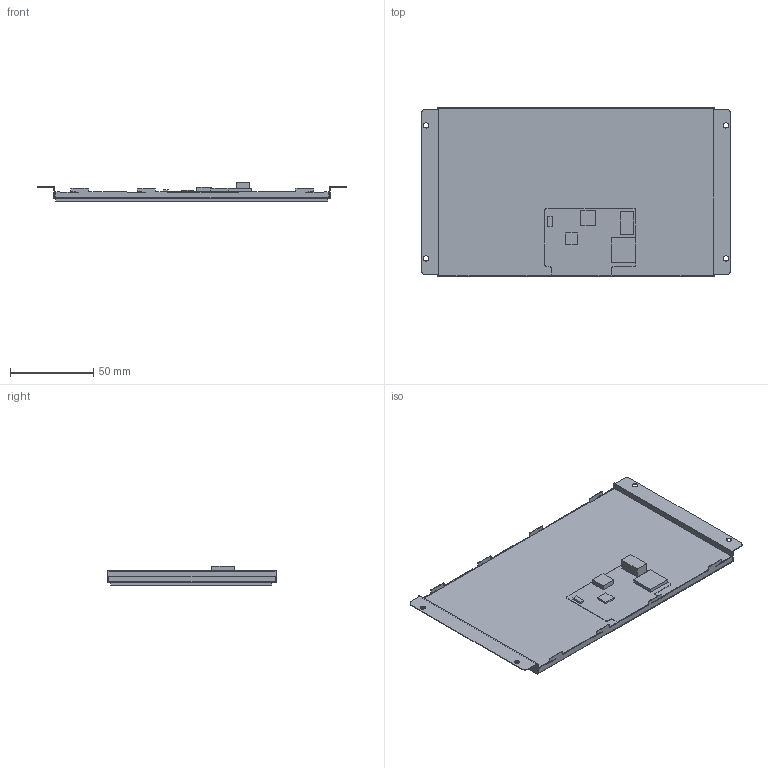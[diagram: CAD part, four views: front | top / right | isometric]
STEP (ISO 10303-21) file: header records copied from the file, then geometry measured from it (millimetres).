
FILE_DESCRIPTION(/* description */ (''),/* implementation_level */ '2;1');
FILE_NAME(/* name */ 'VTc070C01AC.stp',/* time_stamp */ '2026-05-29T09:46:02+08:00',/* author */ (''),/* organization */ (''),/* preprocessor_version */ 'ST-DEVELOPER v16',/* originating_system */ 'SIEMENS PLM Software NX 10.0',/* authorisation */ '');
FILE_SCHEMA (('AP203_CONFIGURATION_CONTROLLED_3D_DESIGN_OF_MECHANICAL_PARTS_AND_ASSEMBLIES_MIM_LF { 1 0 10303 403 2 1 2}'));
Length unit declared in the file: millimetre
Products named in the file (1): VTc070C01AC
Bounding box: 186.3 x 101.2 x 12.01 mm (x, y, z)
Volume: 64106.2 mm3; surface area: 89178.6 mm2
Topology: 8 solids, 8 shells, 194 faces, 519 edges, 346 vertices
Faces by surface type: plane 147, cylinder 42, extrusion 5
Full cylindrical faces by diameter (mm): 3.2 x4
Entity records: 6902 total; most frequent: CARTESIAN_POINT 1679, ORIENTED_EDGE 1030, DIRECTION 906, EDGE_CURVE 515, VECTOR 358, LINE 353, VERTEX_POINT 346, AXIS2_PLACEMENT_3D 274
